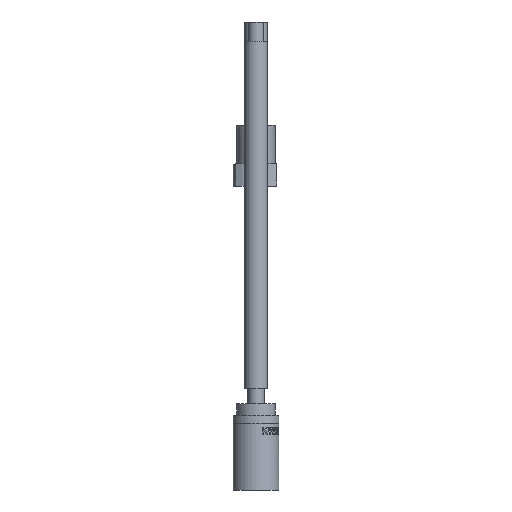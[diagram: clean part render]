
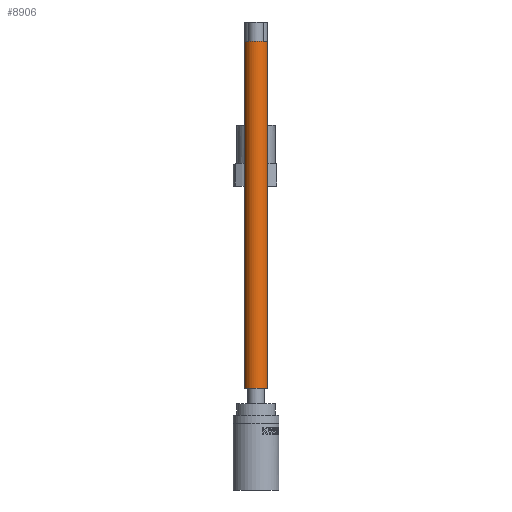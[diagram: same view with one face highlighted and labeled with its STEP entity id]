
A CAD part, left-side view. The second image highlights one B-rep face of the part: STEP entity #8906.
In plain terms, the highlighted cylindrical face has radius 1.5 mm (diameter 3 mm), a full revolution.
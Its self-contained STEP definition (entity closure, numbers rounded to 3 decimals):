
#8906=ADVANCED_FACE('',(#9719,#9720),#9131,.T.);
#9131=CYLINDRICAL_SURFACE('',#20696,1.5);
#9719=FACE_BOUND('',#11039,.T.);
#9720=FACE_BOUND('',#11040,.T.);
#11039=EDGE_LOOP('',(#15206));
#11040=EDGE_LOOP('',(#15207));
#15206=ORIENTED_EDGE('',*,*,#18947,.F.);
#15207=ORIENTED_EDGE('',*,*,#18948,.T.);
#16825=VERTEX_POINT('',#41129);
#16826=VERTEX_POINT('',#41131);
#18947=EDGE_CURVE('',#16825,#16825,#19470,.T.);
#18948=EDGE_CURVE('',#16826,#16826,#19471,.T.);
#19470=CIRCLE('',#20694,1.5);
#19471=CIRCLE('',#20695,1.5);
#20694=AXIS2_PLACEMENT_3D('',#41128,#23545,#23546);
#20695=AXIS2_PLACEMENT_3D('',#41130,#23547,#23548);
#20696=AXIS2_PLACEMENT_3D('',#41132,#23549,#23550);
#23545=DIRECTION('',(0.,0.,-1.));
#23546=DIRECTION('',(-1.,0.,0.));
#23547=DIRECTION('',(0.,0.,-1.));
#23548=DIRECTION('',(-1.,0.,0.));
#23549=DIRECTION('',(0.,0.,-1.));
#23550=DIRECTION('',(-1.,0.,0.));
#41128=CARTESIAN_POINT('',(-52.,0.,13.3));
#41129=CARTESIAN_POINT('',(-53.5,0.,13.3));
#41130=CARTESIAN_POINT('',(-52.,0.,58.8));
#41131=CARTESIAN_POINT('',(-53.5,0.,58.8));
#41132=CARTESIAN_POINT('',(-52.,0.,9.8));
